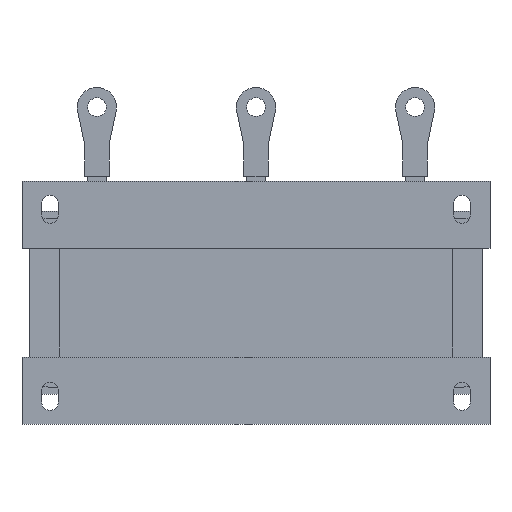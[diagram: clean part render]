
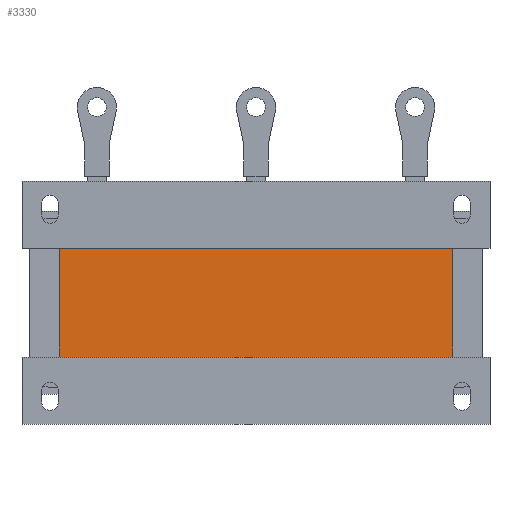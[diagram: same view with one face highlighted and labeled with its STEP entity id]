
A CAD part, front view. The second image highlights one B-rep face of the part: STEP entity #3330.
In plain terms, the highlighted planar face has unit normal (0, -1, 0).
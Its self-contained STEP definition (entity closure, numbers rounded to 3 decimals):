
#184=FACE_OUTER_BOUND('',#380,.T.);
#380=EDGE_LOOP('',(#2297,#2298,#2299,#2300));
#633=LINE('',#4901,#1047);
#634=LINE('',#4903,#1048);
#635=LINE('',#4905,#1049);
#636=LINE('',#4906,#1050);
#1047=VECTOR('',#3954,10.);
#1048=VECTOR('',#3955,10.);
#1049=VECTOR('',#3956,10.);
#1050=VECTOR('',#3957,10.);
#1455=VERTEX_POINT('',#4899);
#1456=VERTEX_POINT('',#4900);
#1457=VERTEX_POINT('',#4902);
#1458=VERTEX_POINT('',#4904);
#1789=EDGE_CURVE('',#1455,#1456,#633,.T.);
#1790=EDGE_CURVE('',#1457,#1455,#634,.T.);
#1791=EDGE_CURVE('',#1458,#1457,#635,.T.);
#1792=EDGE_CURVE('',#1456,#1458,#636,.T.);
#2297=ORIENTED_EDGE('',*,*,#1789,.F.);
#2298=ORIENTED_EDGE('',*,*,#1790,.F.);
#2299=ORIENTED_EDGE('',*,*,#1791,.F.);
#2300=ORIENTED_EDGE('',*,*,#1792,.F.);
#3158=PLANE('',#3583);
#3330=ADVANCED_FACE('',(#184),#3158,.F.);
#3583=AXIS2_PLACEMENT_3D('',#4898,#3952,#3953);
#3952=DIRECTION('center_axis',(0.,1.,0.));
#3953=DIRECTION('ref_axis',(0.,0.,1.));
#3954=DIRECTION('',(1.,0.,0.));
#3955=DIRECTION('',(0.,0.,1.));
#3956=DIRECTION('',(-1.,0.,0.));
#3957=DIRECTION('',(0.,0.,-1.));
#4898=CARTESIAN_POINT('Origin',(0.,2.,0.));
#4899=CARTESIAN_POINT('',(-105.,2.,29.));
#4900=CARTESIAN_POINT('',(105.,2.,29.));
#4901=CARTESIAN_POINT('',(105.,2.,29.));
#4902=CARTESIAN_POINT('',(-105.,2.,-29.));
#4903=CARTESIAN_POINT('',(-105.,2.,-14.5));
#4904=CARTESIAN_POINT('',(105.,2.,-29.));
#4905=CARTESIAN_POINT('',(-105.,2.,-29.));
#4906=CARTESIAN_POINT('',(105.,2.,14.5));
